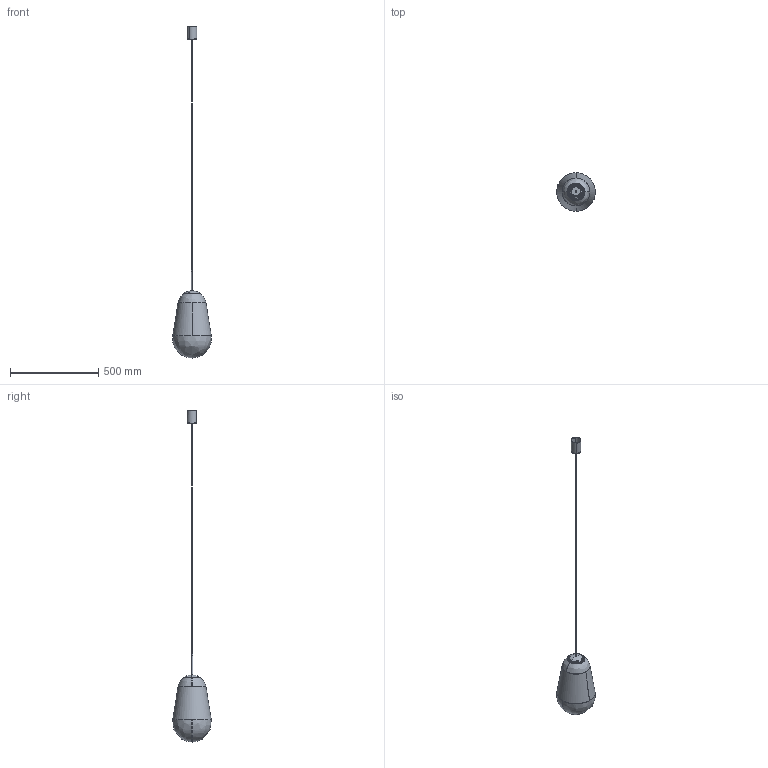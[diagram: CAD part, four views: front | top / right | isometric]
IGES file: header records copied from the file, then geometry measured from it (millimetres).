
Start section: SolidWorks IGES file using NURBS representation for surfaces
Global section: file name: Z:\Modele 3D_WWW\_KOLEKCJE_WWW\PEAR\PEAR-M-8672\PEAR-M-8672.IGS; native system: SolidWorks 2021; preprocessor: SolidWorks 2021; author: gabriela.tworek; date: 211019.152919; units: millimetre
Bounding box: 219.91 x 217.24 x 1880.1 mm (x, y, z)
Surface area: 599138.4 mm2 (no closed solid volume)
Topology: 0 solids, 0 shells, 352 faces, 5043 edges, 5030 vertices
Faces by surface type: bspline 352
